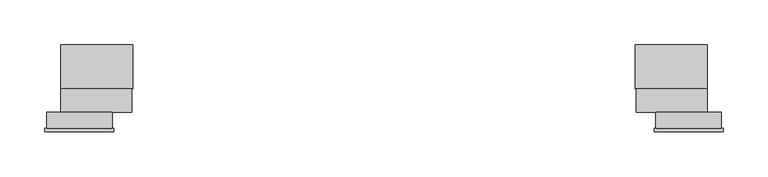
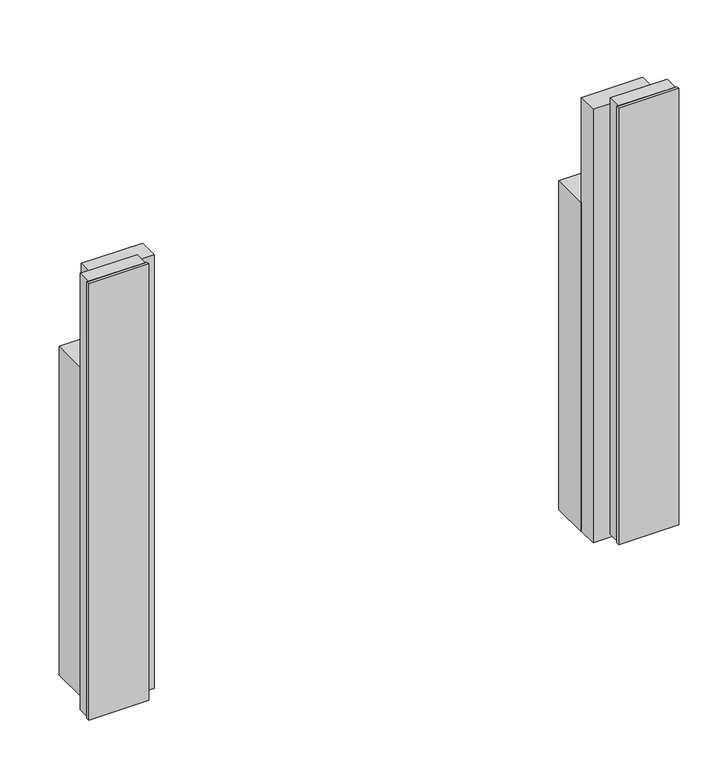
"""IFC4 building model written with IfcOpenShell, lengths in millimetres: proxy geometry, 11515800_USA_EBA7868_OBSW : 29992966_USA_11515800_EBA7868_OBSW."""

from ifc_helpers import new_model, si_unit, frame, origin, origin_with_axes, place, context, project, spatial, polyline, outline, extrude, source, transform, mapped, element, save


def specialty_equipment_5cff2327(model_context):
    return source(origin(), model_context, "Body", "SweptSolid", [
        extrude(outline(polyline([(-376.5, 0.0), (-303.5, 0.0), (-303.5, -18.0), (-376.5, -18.0), (-376.5, 0.0)])), frame((0.0, 0.0, 4.0), z_axis=(0.0, 0.0, 1.0), x_axis=(1.0, 0.0, 0.0)), (0.0, 0.0, 1.0), 592.0),
        extrude(outline(polyline([(303.5, 0.0), (376.5, 0.0), (376.5, -18.0), (303.5, -18.0), (303.5, 0.0)])), frame((0.0, 0.0, 4.0), z_axis=(0.0, 0.0, 1.0), x_axis=(1.0, 0.0, 0.0)), (0.0, 0.0, 1.0), 592.0),
        extrude(outline(polyline([(-378.5, -18.0), (-301.5, -18.0), (-301.5, -22.0), (-378.5, -22.0), (-378.5, -18.0)])), frame((0.0, 0.0, 4.0), z_axis=(0.0, 0.0, 1.0), x_axis=(1.0, 0.0, 0.0)), (0.0, 0.0, 1.0), 592.0),
        extrude(outline(polyline([(301.5, -18.0), (378.5, -18.0), (378.5, -22.0), (301.5, -22.0), (301.5, -18.0)])), frame((0.0, 0.0, 4.0), z_axis=(0.0, 0.0, 1.0), x_axis=(1.0, 0.0, 0.0)), (0.0, 0.0, 1.0), 592.0),
        extrude(outline(polyline([(280.5, 75.0), (360.5, 75.0), (360.5, 26.0), (280.5, 26.0), (280.5, 75.0)])), origin_with_axes(), (0.0, 0.0, 1.0), 446.0),
        extrude(outline(polyline([(-360.5, 75.0), (-280.5, 75.0), (-280.5, 26.0), (-360.5, 26.0), (-360.5, 75.0)])), origin_with_axes(), (0.0, 0.0, 1.0), 446.0),
        extrude(outline(polyline([(281.5, 26.0), (360.5, 26.0), (360.5, 0.0), (281.5, 0.0), (281.5, 26.0)])), origin_with_axes(), (0.0, 0.0, 1.0), 588.0),
        extrude(outline(polyline([(-360.5, 26.0), (-281.5, 26.0), (-281.5, 0.0), (-360.5, 0.0), (-360.5, 26.0)])), origin_with_axes(), (0.0, 0.0, 1.0), 588.0),
    ])


if __name__ == "__main__":
    model = new_model("IFC4")
    model_context = context("Model", 3, world=origin())
    ifc_project = project(units=[si_unit("LENGTHUNIT", "METRE", prefix="MILLI")], contexts=[model_context])
    site = spatial("IfcSite", under=ifc_project)
    building = spatial("IfcBuilding", under=site)
    placement = place(None, origin())
    specialty_equipment_shape = specialty_equipment_5cff2327(model_context)
    element("IfcBuildingElementProxy", 1, Name="11515800_USA_EBA7868_OBSW : 29992966_USA_11515800_EBA7868_OBSW", ObjectType="11515800_USA_EBA7868_OBSW : 29992966_USA_11515800_EBA7868_OBSW", at=placement, inside=building, context=model_context, shape_type="MappedRepresentation", body=[
        mapped(specialty_equipment_shape, transform((0.0, 0.0, 0.0), x_axis=(1.0, 0.0, 0.0), y_axis=(0.0, 1.0, 0.0), z_axis=(0.0, 0.0, 1.0))),
    ])
    save(model, "model.ifc")
